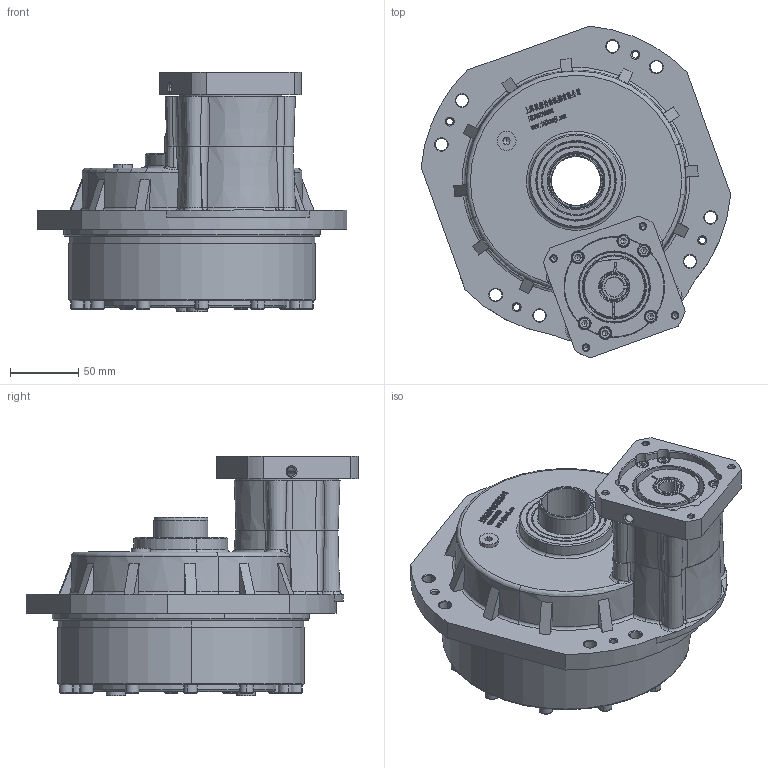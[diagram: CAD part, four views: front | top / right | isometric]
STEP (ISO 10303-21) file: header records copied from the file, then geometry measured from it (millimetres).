
FILE_DESCRIPTION (( 'STEP AP214' ), '1' );
FILE_NAME ('27CBX-RCA-14-7398M5.STEP', '2022-11-13T01:40:22', ( '' ), ( '' ), 'SwSTEP 2.0', 'SolidWorks 2020', '' );
FILE_SCHEMA (( 'AUTOMOTIVE_DESIGN' ));
Length unit declared in the file: millimetre
Products named in the file (20): 弹性挡圈GB 894.1-86 - 40.stp; 錨璃108^27CBX-RCA-14-7398M5; 蹟隊 GB_T 70.1 M6 x 50.stp; 27CBX-RCA-14-7398M5; 蹟隊 GB_T 70.1 M6 x 60.stp; 27CBX-OP00.stp; JIS B 2402 - 40 58 8 A(7).stp; 腴厒奪-27C.stp; 坶踡ん22-45.stp; 萇儂假蚾楊擘7398.stp; 27C假蚾楊擘-02new.stp; 粣創 61908-2Z GB_T 276-94.stp; DIN 908 - M10 x 1.stp; 27C笢潔楊擘.stp; 19-14.stp; 蹟隊 GB_T 70.1 M5 x 25.stp; 蹟隊 GB_T 70.1 M4 x 16.stp; 27CBX-RCA-14-7398M5.stp; JIS B 2402 - 40 52 8 A(7).stp; RDS-27C-输入轴30.stp
Assembly tree (43 placements, depth 3):
  27CBX-RCA-14-7398M5
    27CBX-RCA-14-7398M5.stp
      27CBX-OP00.stp
      27C假蚾楊擘-02new.stp
      粣創 61908-2Z GB_T 276-94.stp
      27C笢潔楊擘.stp
      JIS B 2402 - 40 58 8 A(7).stp
      RDS-27C-输入轴30.stp
      弹性挡圈GB 894.1-86 - 40.stp
      JIS B 2402 - 40 52 8 A(7).stp
      萇儂假蚾楊擘7398.stp
      坶踡ん22-45.stp
      蹟隊 GB_T 70.1 M5 x 25.stp  x6
      蹟隊 GB_T 70.1 M6 x 50.stp  x4
      DIN 908 - M10 x 1.stp  x3
      蹟隊 GB_T 70.1 M6 x 60.stp  x12
      腴厒奪-27C.stp
      蹟隊 GB_T 70.1 M4 x 16.stp  x4
      19-14.stp
    錨璃108^27CBX-RCA-14-7398M5
Bounding box: 227.55 x 243.96 x 176 mm (x, y, z)
Volume: 2389388.2 mm3; surface area: 441285.5 mm2
Topology: 122 solids, 122 shells, 3827 faces, 9783 edges, 6222 vertices
Faces by surface type: plane 1637, cone 690, cylinder 594, bspline 582, torus 296, sphere 28
Entity records: 129275 total; most frequent: CARTESIAN_POINT 50392, ORIENTED_EDGE 16750, DIRECTION 14229, EDGE_CURVE 8375, VERTEX_POINT 5380, LINE 4869, VECTOR 4869, AXIS2_PLACEMENT_3D 4680
